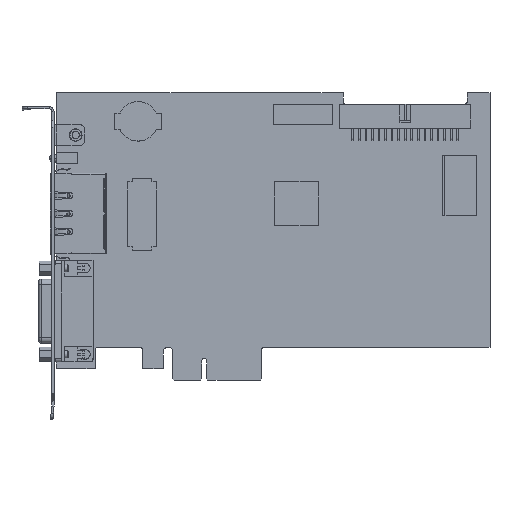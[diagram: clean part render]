
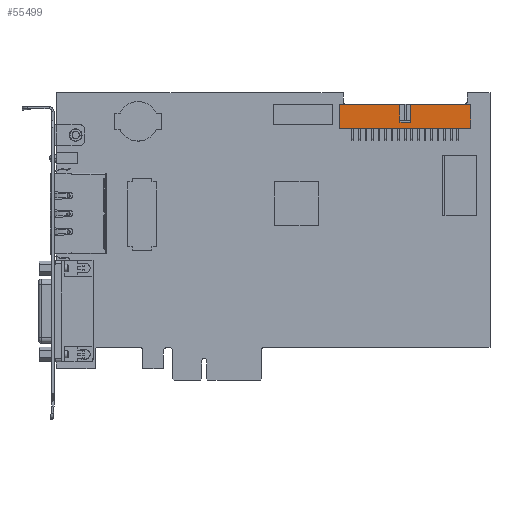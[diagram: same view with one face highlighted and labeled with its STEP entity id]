
A CAD part, top view. The second image highlights one B-rep face of the part: STEP entity #55499.
In plain terms, the highlighted planar face has unit normal (0, 0, 1).
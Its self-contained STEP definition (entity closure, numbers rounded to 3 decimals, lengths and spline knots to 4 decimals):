
#13228=DIRECTION('',(-1.,0.,0.));
#13229=VECTOR('',#13228,0.898);
#13230=CARTESIAN_POINT('',(6.0151,0.0177,
0.3915));
#13231=LINE('',#13230,#13229);
#13260=DIRECTION('',(-1.,0.,0.));
#13261=VECTOR('',#13260,0.898);
#13262=CARTESIAN_POINT('',(4.9131,0.0177,
0.3915));
#13263=LINE('',#13262,#13261);
#13300=DIRECTION('',(-1.,0.,0.));
#13301=VECTOR('',#13300,2.);
#13302=CARTESIAN_POINT('',(6.0151,-0.3475,
0.3915));
#13303=LINE('',#13302,#13301);
#13868=DIRECTION('',(0.,-1.,0.));
#13869=VECTOR('',#13868,0.3651);
#13870=CARTESIAN_POINT('',(4.0151,0.0178,
0.3915));
#13871=LINE('',#13870,#13869);
#13884=DIRECTION('',(1.,0.,0.));
#13885=VECTOR('',#13884,0.16);
#13886=CARTESIAN_POINT('',(4.9351,-0.2524,
0.3915));
#13887=LINE('',#13886,#13885);
#13888=DIRECTION('',(0.,1.,0.));
#13889=VECTOR('',#13888,0.248);
#13890=CARTESIAN_POINT('',(5.0951,-0.2524,
0.3915));
#13891=LINE('',#13890,#13889);
#13892=CARTESIAN_POINT('',(5.1171,-0.0044,
0.3915));
#13893=DIRECTION('',(0.,0.,1.));
#13894=DIRECTION('',(0.,1.,0.));
#13895=AXIS2_PLACEMENT_3D('',#13892,#13893,#13894);
#13897=DIRECTION('',(0.,-1.,0.));
#13898=VECTOR('',#13897,0.3652);
#13899=CARTESIAN_POINT('',(6.0151,0.0177,
0.3915));
#13900=LINE('',#13899,#13898);
#13901=CARTESIAN_POINT('',(4.9131,-0.0044,
0.3915));
#13902=DIRECTION('',(0.,0.,1.));
#13903=DIRECTION('',(1.,0.,0.));
#13904=AXIS2_PLACEMENT_3D('',#13901,#13902,#13903);
#13906=DIRECTION('',(0.,-1.,0.));
#13907=VECTOR('',#13906,0.248);
#13908=CARTESIAN_POINT('',(4.9351,-0.0044,
0.3915));
#13909=LINE('',#13908,#13907);
#32842=CARTESIAN_POINT('',(6.0151,-0.3475,
0.3915));
#32843=CARTESIAN_POINT('',(4.0151,-0.3473,
0.3915));
#32844=VERTEX_POINT('',#32842);
#32845=VERTEX_POINT('',#32843);
#32846=CARTESIAN_POINT('',(4.0151,0.0178,
0.3915));
#32847=VERTEX_POINT('',#32846);
#32848=CARTESIAN_POINT('',(6.0151,0.0177,
0.3915));
#32849=VERTEX_POINT('',#32848);
#32871=CARTESIAN_POINT('',(5.1171,0.0177,
0.3915));
#32873=VERTEX_POINT('',#32871);
#32875=CARTESIAN_POINT('',(4.9131,0.0177,
0.3915));
#32877=VERTEX_POINT('',#32875);
#32878=CARTESIAN_POINT('',(4.9351,-0.2524,
0.3915));
#32879=CARTESIAN_POINT('',(5.0951,-0.2524,
0.3915));
#32880=VERTEX_POINT('',#32878);
#32881=VERTEX_POINT('',#32879);
#32882=CARTESIAN_POINT('',(5.0951,-0.0044,
0.3915));
#32883=VERTEX_POINT('',#32882);
#32884=CARTESIAN_POINT('',(4.9351,-0.0044,
0.3915));
#32885=VERTEX_POINT('',#32884);
#55477=CARTESIAN_POINT('',(6.0151,0.0175,
0.3915));
#55478=DIRECTION('',(0.,0.,1.));
#55479=DIRECTION('',(-1.,0.,0.));
#55480=AXIS2_PLACEMENT_3D('',#55477,#55478,#55479);
#55481=PLANE('',#55480);
#55483=ORIENTED_EDGE('',*,*,#55482,.T.);
#55485=ORIENTED_EDGE('',*,*,#55484,.T.);
#55487=ORIENTED_EDGE('',*,*,#55486,.F.);
#55488=ORIENTED_EDGE('',*,*,#55039,.F.);
#55489=ORIENTED_EDGE('',*,*,#55082,.T.);
#55490=ORIENTED_EDGE('',*,*,#55103,.T.);
#55491=ORIENTED_EDGE('',*,*,#55464,.F.);
#55492=ORIENTED_EDGE('',*,*,#55055,.F.);
#55494=ORIENTED_EDGE('',*,*,#55493,.F.);
#55496=ORIENTED_EDGE('',*,*,#55495,.T.);
#55497=EDGE_LOOP('',(#55483,#55485,#55487,#55488,#55489,#55490,#55491,#55492,
#55494,#55496));
#55498=FACE_OUTER_BOUND('',#55497,.F.);
#55499=ADVANCED_FACE('',(#55498),#55481,.T.);
#13896=CIRCLE('',#13895,0.022);
#13905=CIRCLE('',#13904,0.022);
#55039=EDGE_CURVE('',#32849,#32873,#13231,.T.);
#55055=EDGE_CURVE('',#32877,#32847,#13263,.T.);
#55082=EDGE_CURVE('',#32849,#32844,#13900,.T.);
#55103=EDGE_CURVE('',#32844,#32845,#13303,.T.);
#55464=EDGE_CURVE('',#32847,#32845,#13871,.T.);
#55482=EDGE_CURVE('',#32880,#32881,#13887,.T.);
#55484=EDGE_CURVE('',#32881,#32883,#13891,.T.);
#55486=EDGE_CURVE('',#32873,#32883,#13896,.T.);
#55493=EDGE_CURVE('',#32885,#32877,#13905,.T.);
#55495=EDGE_CURVE('',#32885,#32880,#13909,.T.);
